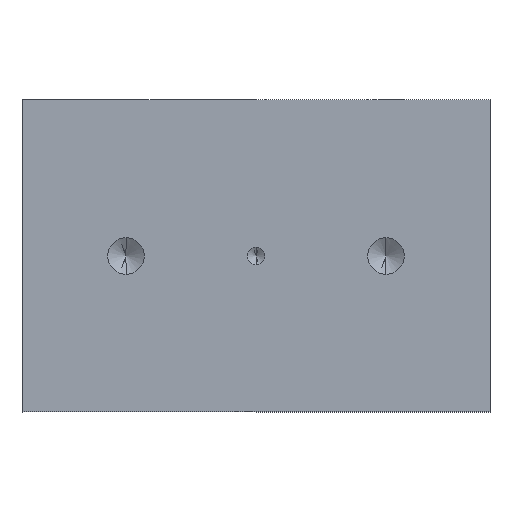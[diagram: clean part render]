
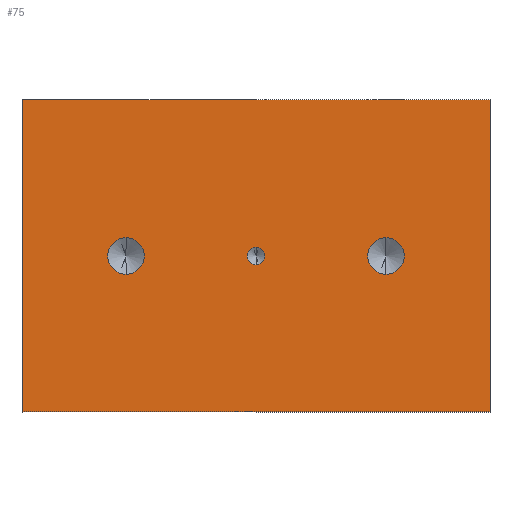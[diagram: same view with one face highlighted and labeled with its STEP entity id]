
A CAD part, front view. The second image highlights one B-rep face of the part: STEP entity #75.
In plain terms, the highlighted planar face has unit normal (0, -1, 0).
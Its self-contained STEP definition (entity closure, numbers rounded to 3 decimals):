
#75 = ADVANCED_FACE ( 'NONE', ( #839, #838, #844, #846 ), #2259, .F. ) ;
#183 = ORIENTED_EDGE ( 'NONE', *, *, #567, .F. ) ;
#184 = ORIENTED_EDGE ( 'NONE', *, *, #499, .F. ) ;
#185 = ORIENTED_EDGE ( 'NONE', *, *, #568, .F. ) ;
#186 = ORIENTED_EDGE ( 'NONE', *, *, #506, .F. ) ;
#187 = ORIENTED_EDGE ( 'NONE', *, *, #566, .F. ) ;
#188 = ORIENTED_EDGE ( 'NONE', *, *, #513, .F. ) ;
#189 = ORIENTED_EDGE ( 'NONE', *, *, #528, .F. ) ;
#190 = ORIENTED_EDGE ( 'NONE', *, *, #561, .F. ) ;
#191 = ORIENTED_EDGE ( 'NONE', *, *, #555, .F. ) ;
#192 = ORIENTED_EDGE ( 'NONE', *, *, #546, .F. ) ;
#413 = EDGE_LOOP ( 'NONE', ( #183, #184 ) ) ;
#417 = EDGE_LOOP ( 'NONE', ( #185, #186 ) ) ;
#418 = EDGE_LOOP ( 'NONE', ( #187, #188 ) ) ;
#441 = EDGE_LOOP ( 'NONE', ( #189, #190, #191, #192 ) ) ;
#499 = EDGE_CURVE ( 'NONE', #2119, #2118, #934, .T. ) ;
#506 = EDGE_CURVE ( 'NONE', #2114, #2113, #946, .T. ) ;
#513 = EDGE_CURVE ( 'NONE', #2065, #2058, #960, .T. ) ;
#528 = EDGE_CURVE ( 'NONE', #2106, #2053, #975, .T. ) ;
#546 = EDGE_CURVE ( 'NONE', #2053, #2342, #1015, .T. ) ;
#555 = EDGE_CURVE ( 'NONE', #2342, #2355, #1018, .T. ) ;
#561 = EDGE_CURVE ( 'NONE', #2355, #2106, #1040, .T. ) ;
#566 = EDGE_CURVE ( 'NONE', #2058, #2065, #1049, .T. ) ;
#567 = EDGE_CURVE ( 'NONE', #2118, #2119, #1051, .T. ) ;
#568 = EDGE_CURVE ( 'NONE', #2113, #2114, #1052, .T. ) ;
#644 = AXIS2_PLACEMENT_3D ( 'NONE', #2258, #2257, #2256 ) ;
#683 = AXIS2_PLACEMENT_3D ( 'NONE', #1793, #1797, #1798 ) ;
#685 = AXIS2_PLACEMENT_3D ( 'NONE', #1775, #1776, #1792 ) ;
#690 = AXIS2_PLACEMENT_3D ( 'NONE', #1881, #1880, #1879 ) ;
#701 = AXIS2_PLACEMENT_3D ( 'NONE', #1958, #1933, #1954 ) ;
#705 = AXIS2_PLACEMENT_3D ( 'NONE', #1956, #1955, #1931 ) ;
#707 = AXIS2_PLACEMENT_3D ( 'NONE', #1959, #1920, #1953 ) ;
#838 = FACE_BOUND ( 'NONE', #417, .T. ) ;
#839 = FACE_BOUND ( 'NONE', #413, .T. ) ;
#844 = FACE_BOUND ( 'NONE', #418, .T. ) ;
#846 = FACE_OUTER_BOUND ( 'NONE', #441, .T. ) ;
#934 = CIRCLE ( 'NONE', #685, 1. ) ;
#946 = CIRCLE ( 'NONE', #683, 2.1 ) ;
#960 = CIRCLE ( 'NONE', #690, 2.1 ) ;
#975 = LINE ( 'NONE', #1854, #985 ) ;
#985 = VECTOR ( 'NONE', #1847, 1000. ) ;
#1015 = LINE ( 'NONE', #1806, #1016 ) ;
#1016 = VECTOR ( 'NONE', #1805, 1000. ) ;
#1018 = LINE ( 'NONE', #1906, #1026 ) ;
#1026 = VECTOR ( 'NONE', #1908, 1000. ) ;
#1028 = VECTOR ( 'NONE', #1927, 1000. ) ;
#1040 = LINE ( 'NONE', #1911, #1028 ) ;
#1049 = CIRCLE ( 'NONE', #701, 2.1 ) ;
#1051 = CIRCLE ( 'NONE', #705, 1. ) ;
#1052 = CIRCLE ( 'NONE', #707, 2.1 ) ;
#1347 = CARTESIAN_POINT ( 'NONE',  ( 0., 0., 36. ) ) ;
#1350 = CARTESIAN_POINT ( 'NONE',  ( 42., 0., 15.9 ) ) ;
#1357 = CARTESIAN_POINT ( 'NONE',  ( 42., 0., 20.1 ) ) ;
#1394 = CARTESIAN_POINT ( 'NONE',  ( 0., 0., 0. ) ) ;
#1401 = CARTESIAN_POINT ( 'NONE',  ( 12., 0., 15.9 ) ) ;
#1402 = CARTESIAN_POINT ( 'NONE',  ( 12., 0., 20.1 ) ) ;
#1406 = CARTESIAN_POINT ( 'NONE',  ( 27., 0., 17. ) ) ;
#1407 = CARTESIAN_POINT ( 'NONE',  ( 27., 0., 19. ) ) ;
#1430 = CARTESIAN_POINT ( 'NONE',  ( 54., 0., 36. ) ) ;
#1443 = CARTESIAN_POINT ( 'NONE',  ( 54., 0., 0. ) ) ;
#1775 = CARTESIAN_POINT ( 'NONE',  ( 27., 0., 18. ) ) ;
#1776 = DIRECTION ( 'NONE',  ( 0., -1., 0. ) ) ;
#1792 = DIRECTION ( 'NONE',  ( 0., 0., -1. ) ) ;
#1793 = CARTESIAN_POINT ( 'NONE',  ( 12., 0., 18. ) ) ;
#1797 = DIRECTION ( 'NONE',  ( 0., -1., 0. ) ) ;
#1798 = DIRECTION ( 'NONE',  ( 0., 0., -1. ) ) ;
#1805 = DIRECTION ( 'NONE',  ( 1., 0., 0. ) ) ;
#1806 = CARTESIAN_POINT ( 'NONE',  ( 0., 0., 36. ) ) ;
#1847 = DIRECTION ( 'NONE',  ( 0., 0., 1. ) ) ;
#1854 = CARTESIAN_POINT ( 'NONE',  ( 0., 0., 0. ) ) ;
#1879 = DIRECTION ( 'NONE',  ( 0., 0., -1. ) ) ;
#1880 = DIRECTION ( 'NONE',  ( 0., -1., 0. ) ) ;
#1881 = CARTESIAN_POINT ( 'NONE',  ( 42., 0., 18. ) ) ;
#1906 = CARTESIAN_POINT ( 'NONE',  ( 54., 0., 0. ) ) ;
#1908 = DIRECTION ( 'NONE',  ( 0., 0., -1. ) ) ;
#1911 = CARTESIAN_POINT ( 'NONE',  ( 0., 0., 0. ) ) ;
#1920 = DIRECTION ( 'NONE',  ( 0., -1., 0. ) ) ;
#1927 = DIRECTION ( 'NONE',  ( -1., 0., 0. ) ) ;
#1931 = DIRECTION ( 'NONE',  ( 0., 0., -1. ) ) ;
#1933 = DIRECTION ( 'NONE',  ( 0., -1., 0. ) ) ;
#1953 = DIRECTION ( 'NONE',  ( 0., 0., -1. ) ) ;
#1954 = DIRECTION ( 'NONE',  ( 0., 0., -1. ) ) ;
#1955 = DIRECTION ( 'NONE',  ( 0., -1., 0. ) ) ;
#1956 = CARTESIAN_POINT ( 'NONE',  ( 27., 0., 18. ) ) ;
#1958 = CARTESIAN_POINT ( 'NONE',  ( 42., 0., 18. ) ) ;
#1959 = CARTESIAN_POINT ( 'NONE',  ( 12., 0., 18. ) ) ;
#2053 = VERTEX_POINT ( 'NONE', #1347 ) ;
#2058 = VERTEX_POINT ( 'NONE', #1350 ) ;
#2065 = VERTEX_POINT ( 'NONE', #1357 ) ;
#2106 = VERTEX_POINT ( 'NONE', #1394 ) ;
#2113 = VERTEX_POINT ( 'NONE', #1401 ) ;
#2114 = VERTEX_POINT ( 'NONE', #1402 ) ;
#2118 = VERTEX_POINT ( 'NONE', #1406 ) ;
#2119 = VERTEX_POINT ( 'NONE', #1407 ) ;
#2256 = DIRECTION ( 'NONE',  ( 0., 0., 1. ) ) ;
#2257 = DIRECTION ( 'NONE',  ( 0., 1., 0. ) ) ;
#2258 = CARTESIAN_POINT ( 'NONE',  ( 0., 0., 36. ) ) ;
#2259 = PLANE ( 'NONE',  #644 ) ;
#2342 = VERTEX_POINT ( 'NONE', #1430 ) ;
#2355 = VERTEX_POINT ( 'NONE', #1443 ) ;
